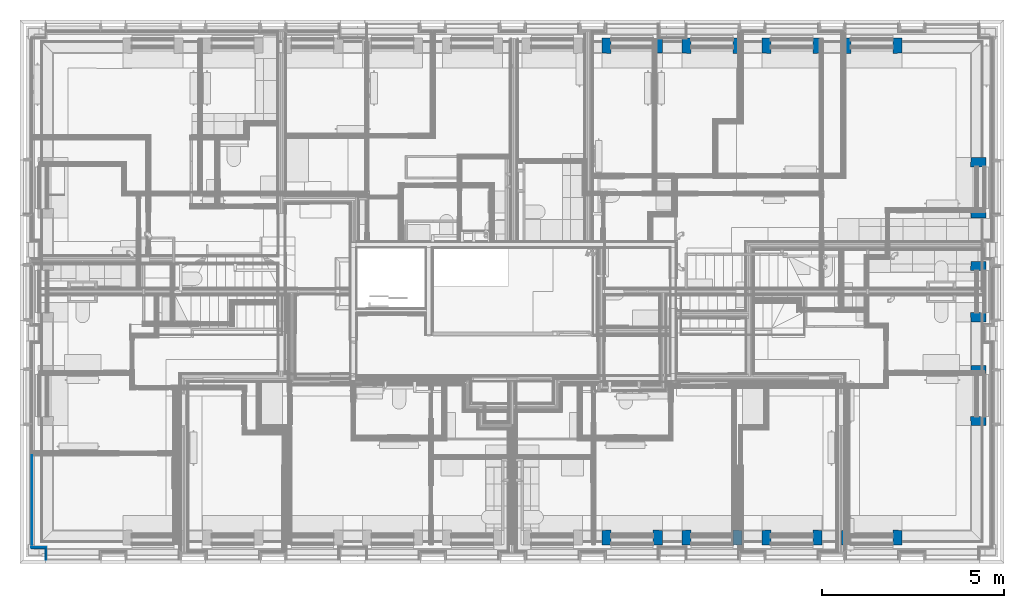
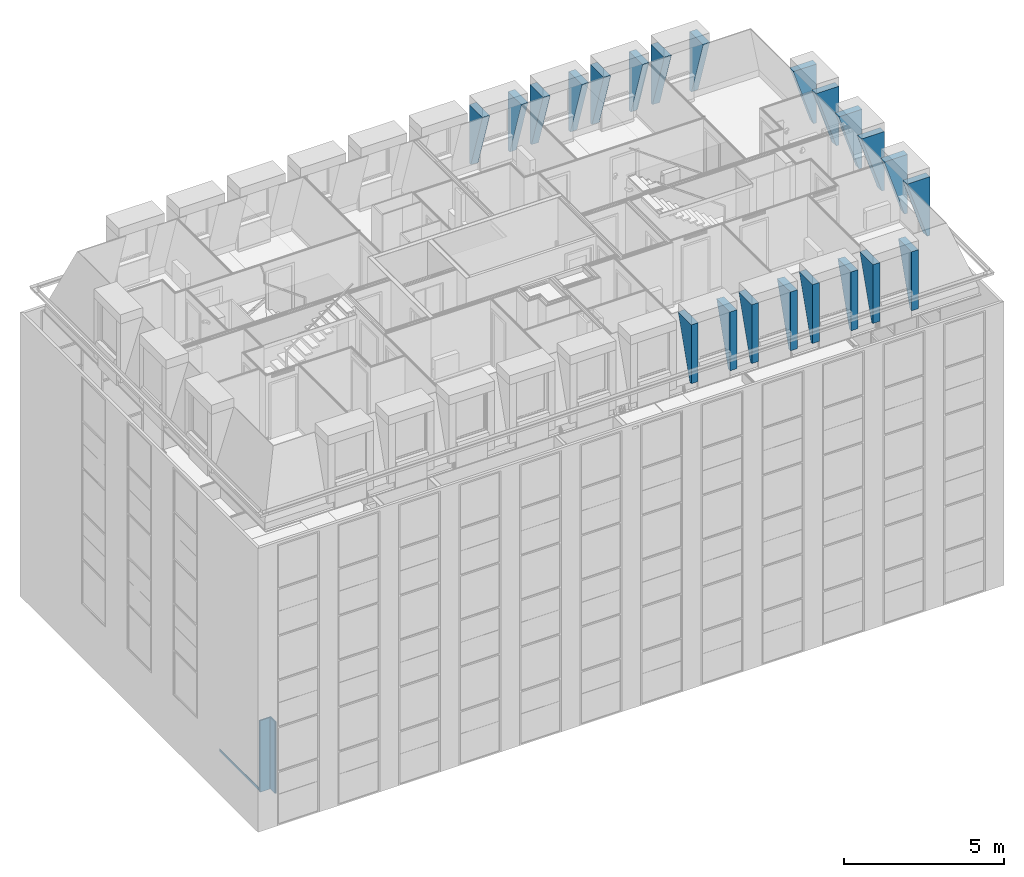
# One storey, part 12 of 169: 22 walls, 5 building element parts, 3 elements without a shape of their own.
"""IFC2X3 building model written with IfcOpenShell, lengths in metres."""

import ifcopenshell
import ifcopenshell.guid

model = None  # the IFC model being written
_history = None  # IfcOwnerHistory: only IFC2X3 demands one
_inside = {}  # id of a spatial element -> (the spatial element, [elements in it])
_under = {}  # id of a project, library or spatial element -> (it, [spatial elements below it])
_declared = {}  # id of a project -> (the project, [libraries it declares])
_typed = {}  # id of a type object -> (the type object, [elements of that type])
_made_of = {}  # id of a material, layer set ... -> (it, [elements and type objects made of it])


def new_model(schema):
    """Start an empty IFC model of exactly this schema.

    Asked for "IFC4X3", IfcOpenShell would pick the latest addendum, in which some entities
    have other attributes; the version numbers below select the first issue.
    IFC2X3 requires an IfcOwnerHistory on every rooted entity: one is made here for all.
    """
    global model, _history
    if schema == "IFC4X3":
        model = ifcopenshell.file(schema_version=(4, 3, 0, 0))
    else:
        model = ifcopenshell.file(schema=schema)
    _inside.clear()
    _under.clear()
    _declared.clear()
    _typed.clear()
    _made_of.clear()
    _history = None
    if model.schema == "IFC2X3":
        org = make("IfcOrganization", Name="unknown")
        user = make(
            "IfcPersonAndOrganization",
            ThePerson=make("IfcPerson", FamilyName="unknown"),
            TheOrganization=org,
        )
        app = make(
            "IfcApplication",
            ApplicationDeveloper=org,
            Version="unknown",
            ApplicationFullName="unknown",
            ApplicationIdentifier="unknown",
        )
        _history = make(
            "IfcOwnerHistory",
            OwningUser=user,
            OwningApplication=app,
            ChangeAction="ADDED",
            CreationDate=0,
        )
    return model


def make(cls, **values):
    """One entity of the class cls with the attributes given. An attribute that is None is left unset."""
    return model.create_entity(
        cls, **{name: value for name, value in values.items() if value is not None}
    )


def entity(cls, *values):
    """Any entity or typed value of the class cls, its attributes in the order of the schema. None: left unset."""
    e = model.create_entity(cls)
    for i, value in enumerate(values):
        if value is not None:
            e[i] = value
    return e


def rooted(cls, **values):
    """An entity with a GlobalId (a new one), such as an element, a storey or a relation."""
    return make(cls, GlobalId=ifcopenshell.guid.new(), OwnerHistory=_history, **values)


def si_unit(unit_type, name, prefix=None):
    """IfcSIUnit, for example si_unit("LENGTHUNIT", "METRE", prefix="MILLI")."""
    return make("IfcSIUnit", UnitType=unit_type, Prefix=prefix, Name=name)


def converted_unit(unit_type, name, factor, base, dimensions=None, offset=None):
    """IfcConversionBasedUnit, such as the inch: factor (a typed value) times the base unit."""
    return make(
        "IfcConversionBasedUnit"
        if offset is None
        else "IfcConversionBasedUnitWithOffset",
        ConversionOffset=offset,
        Dimensions=None
        if dimensions is None
        else entity("IfcDimensionalExponents", *dimensions),
        UnitType=unit_type,
        Name=name,
        ConversionFactor=make(
            "IfcMeasureWithUnit", ValueComponent=factor, UnitComponent=base
        ),
    )


def derived_unit(unit_type, elements):
    """IfcDerivedUnit: a product of units, each with its exponent."""
    return make(
        "IfcDerivedUnit",
        Elements=[
            make("IfcDerivedUnitElement", Unit=unit, Exponent=power)
            for unit, power in elements
        ],
        UnitType=unit_type,
    )


def money_unit(currency):
    """IfcMonetaryUnit."""
    return make("IfcMonetaryUnit", Currency=currency)


def assignment(units):
    """IfcUnitAssignment: the units of a project."""
    return None if units is None else make("IfcUnitAssignment", Units=units)


def point(xyz):
    """IfcCartesianPoint."""
    return None if xyz is None else make("IfcCartesianPoint", Coordinates=xyz)


def direction(xyz):
    """IfcDirection."""
    return None if xyz is None else make("IfcDirection", DirectionRatios=xyz)


def frame(location, z_axis=None, x_axis=None):
    """IfcAxis2Placement3D, a coordinate frame: its origin and axes. An axis left out is left unset."""
    return make(
        "IfcAxis2Placement3D",
        Location=point(location),
        Axis=direction(z_axis),
        RefDirection=direction(x_axis),
    )


def frame_2d(location, x_axis=None):
    """IfcAxis2Placement2D, a coordinate frame in the plane: its origin and x axis."""
    return make(
        "IfcAxis2Placement2D", Location=point(location), RefDirection=direction(x_axis)
    )


def origin_with_axes():
    """The frame at (0, 0, 0) with the z axis (0, 0, 1) and the x axis (1, 0, 0) written out."""
    return frame((0.0, 0.0, 0.0), z_axis=(0.0, 0.0, 1.0), x_axis=(1.0, 0.0, 0.0))


def place(relative_to, where):
    """IfcLocalPlacement: puts the frame where relative to a parent placement (None: the world)."""
    return make(
        "IfcLocalPlacement", PlacementRelTo=relative_to, RelativePlacement=where
    )


def context(
    kind, dimensions, precision=None, world=None, true_north=None, identifier=None
):
    """IfcGeometricRepresentationContext, for example the 3D "Model" context."""
    return make(
        "IfcGeometricRepresentationContext",
        ContextIdentifier=identifier,
        ContextType=kind,
        CoordinateSpaceDimension=dimensions,
        Precision=precision,
        WorldCoordinateSystem=world,
        TrueNorth=true_north,
    )


def subcontext(parent, identifier, kind, view, scale=None):
    """IfcGeometricRepresentationSubContext, for example "Body" below "Model"."""
    return make(
        "IfcGeometricRepresentationSubContext",
        ContextIdentifier=identifier,
        ContextType=kind,
        ParentContext=parent,
        TargetScale=scale,
        TargetView=view,
    )


def project(units=None, contexts=None):
    """IfcProject with its units and contexts."""
    return rooted(
        "IfcProject",
        Name="project",
        RepresentationContexts=contexts,
        UnitsInContext=assignment(units),
    )


def spatial(cls, under=None, at=None, **own):
    """A site, building, storey or space (cls), placed at a placement, below another one or the project."""
    s = rooted(cls, ObjectPlacement=at, **own)
    if under is not None:
        _under.setdefault(under.id(), (under, []))[1].append(s)
    return s


def polyline(points):
    """IfcPolyline through the points."""
    return make("IfcPolyline", Points=[point(p) for p in points])


def profile(cls, at=None, kind="AREA", **sizes):
    """A parametric profile (cls). Its sizes go by their IFC names, for example OverallWidth=200.0."""
    return make(cls, ProfileType=kind, Position=at, **sizes)


def rectangle(**sizes):
    """IfcRectangleProfileDef."""
    return profile("IfcRectangleProfileDef", **sizes)


def outline(outer, holes=None, kind="AREA"):
    """IfcArbitraryClosedProfileDef: a profile drawn as a closed curve; with holes, ...WithVoids."""
    if holes is None:
        return make("IfcArbitraryClosedProfileDef", ProfileType=kind, OuterCurve=outer)
    return make(
        "IfcArbitraryProfileDefWithVoids",
        ProfileType=kind,
        OuterCurve=outer,
        InnerCurves=holes,
    )


def extrude(swept, where, along, depth):
    """IfcExtrudedAreaSolid: the profile swept, set in the frame where, extruded along a direction by depth."""
    return make(
        "IfcExtrudedAreaSolid",
        SweptArea=swept,
        Position=where,
        ExtrudedDirection=direction(along),
        Depth=depth,
    )


def faces_of(points, faces, orient=None, outer=None):
    """IfcFace entities. A face is a list of loops; a loop is a list of indices into points, from 0.

    orient and outer hold one flag for each loop. By default every Orientation is true, the
    first loop of a face is its IfcFaceOuterBound and the others are IfcFaceBound.
    """
    made = []
    for i, loops in enumerate(faces):
        bounds = []
        for j, loop in enumerate(loops):
            is_outer = j == 0 if outer is None else outer[i][j]
            bounds.append(
                make(
                    "IfcFaceOuterBound" if is_outer else "IfcFaceBound",
                    Bound=make("IfcPolyLoop", Polygon=[points[k] for k in loop]),
                    Orientation=True if orient is None else orient[i][j],
                )
            )
        made.append(make("IfcFace", Bounds=bounds))
    return made


def faceted_brep(points, faces, orient=None, outer=None, voids=None):
    """IfcFacetedBrep: a solid bounded by flat faces; with voids (closed shells), ...WithVoids."""
    shared = [point(p) for p in points]
    hull = make("IfcClosedShell", CfsFaces=faces_of(shared, faces, orient, outer))
    if voids is None:
        return make("IfcFacetedBrep", Outer=hull)
    return make(
        "IfcFacetedBrepWithVoids",
        Outer=hull,
        Voids=[
            make(cls, CfsFaces=faces_of(shared, fs, o, b)) for cls, fs, o, b in voids
        ],
    )


def shape(context_of_items, identifier, shape_type, items):
    """IfcShapeRepresentation: the items that make up one representation, for example the "Body"."""
    return make(
        "IfcShapeRepresentation",
        ContextOfItems=context_of_items,
        RepresentationIdentifier=identifier,
        RepresentationType=shape_type,
        Items=items,
    )


def material(Name=None, Category=None):
    """IfcMaterial."""
    return make("IfcMaterial", Name=Name, Category=Category)


def made_of(thing, what):
    """Note that an element or type object is made of a material, layer set ...; save() writes the relation."""
    if what is not None:
        _made_of.setdefault(what.id(), (what, []))[1].append(thing)
    return thing


def type_object(cls, material=None, **own):
    """A type object (cls), such as IfcWallType, which elements share."""
    return made_of(rooted(cls, **own), material)


def element(
    cls,
    number,
    at=None,
    inside=None,
    cuts=None,
    type_object=None,
    material=None,
    context=None,
    identifier="Body",
    shape_type=None,
    held_by="IfcProductDefinitionShape",
    body=None,
    shapes=None,
    **own,
):
    """One element of the class cls, such as IfcWall. Its Tag is "e" and its number.

    at: its placement. inside: the storey or other place that contains it. cuts: it is an
    opening in that element (IfcRelVoidsElement). A single representation is given by context,
    identifier, shape_type and body (its items); several are given by shapes. held_by: the class
    of the entity that holds the representations. save() writes the other relations.
    """
    e = rooted(cls, Tag="e%d" % number, ObjectPlacement=at, **own)
    if body is not None:
        shapes = [shape(context, identifier, shape_type, body)]
    if shapes is not None:
        e.Representation = make(held_by, Representations=shapes)
    if inside is not None:
        _inside.setdefault(inside.id(), (inside, []))[1].append(e)
    if cuts is not None:
        rooted(
            "IfcRelVoidsElement", RelatingBuildingElement=cuts, RelatedOpeningElement=e
        )
    if type_object is not None:
        _typed.setdefault(type_object.id(), (type_object, []))[1].append(e)
    return made_of(e, material)


def aggregate(whole, parts):
    """IfcRelAggregates: a whole, such as a stair, and the parts it consists of."""
    return rooted("IfcRelAggregates", RelatingObject=whole, RelatedObjects=parts)


def save(model, path):
    """Write the relations noted so far, then the file.

    IfcRelAggregates (storeys below a building ...), IfcRelContainedInSpatialStructure (elements
    in a storey), IfcRelDefinesByType, IfcRelAssociatesMaterial and IfcRelDeclares: one each for
    every whole, place, type object, material and project.
    """
    for whole, parts in _under.values():
        aggregate(whole, parts)
    for where, things in _inside.values():
        rooted(
            "IfcRelContainedInSpatialStructure",
            RelatedElements=things,
            RelatingStructure=where,
        )
    for kind, things in _typed.values():
        rooted("IfcRelDefinesByType", RelatedObjects=things, RelatingType=kind)
    for what, things in _made_of.values():
        rooted("IfcRelAssociatesMaterial", RelatedObjects=things, RelatingMaterial=what)
    for by, libraries in _declared.values():
        rooted("IfcRelDeclares", RelatingContext=by, RelatedDefinitions=libraries)
    model.write(path)


model = new_model("IFC2X3")

# Units and contexts
model_context = context("Model", 3, precision=1e-05, world=origin_with_axes(), true_north=direction((0.0, 1.0)))
body_context = subcontext(model_context, "Body", "Model", "MODEL_VIEW", scale=1.0)
ifc_project = project(units=[si_unit("LENGTHUNIT", "METRE"), si_unit("AREAUNIT", "SQUARE_METRE"), si_unit("VOLUMEUNIT", "CUBIC_METRE"), si_unit("ABSORBEDDOSEUNIT", "GRAY"), si_unit("AMOUNTOFSUBSTANCEUNIT", "MOLE"), si_unit("DOSEEQUIVALENTUNIT", "SIEVERT"), si_unit("ELECTRICCAPACITANCEUNIT", "FARAD"), si_unit("ELECTRICCHARGEUNIT", "COULOMB"), si_unit("ELECTRICCONDUCTANCEUNIT", "SIEMENS"), si_unit("ELECTRICCURRENTUNIT", "AMPERE"), si_unit("ELECTRICRESISTANCEUNIT", "OHM"), si_unit("ELECTRICVOLTAGEUNIT", "VOLT"), si_unit("ENERGYUNIT", "JOULE"), si_unit("FORCEUNIT", "NEWTON"), si_unit("FREQUENCYUNIT", "HERTZ"), si_unit("ILLUMINANCEUNIT", "LUX"), si_unit("INDUCTANCEUNIT", "HENRY"), si_unit("LUMINOUSFLUXUNIT", "LUMEN"), si_unit("LUMINOUSINTENSITYUNIT", "CANDELA"), si_unit("MAGNETICFLUXDENSITYUNIT", "TESLA"), si_unit("MAGNETICFLUXUNIT", "WEBER"), si_unit("MASSUNIT", "GRAM"), converted_unit("PLANEANGLEUNIT", "degree", entity("IfcReal", 0.0174532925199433), si_unit("PLANEANGLEUNIT", "RADIAN"), dimensions=[0, 0, 0, 0, 0, 0, 0]), si_unit("POWERUNIT", "WATT"), si_unit("PRESSUREUNIT", "PASCAL"), si_unit("RADIOACTIVITYUNIT", "BECQUEREL"), si_unit("SOLIDANGLEUNIT", "STERADIAN"), si_unit("THERMODYNAMICTEMPERATUREUNIT", "KELVIN"), si_unit("TIMEUNIT", "SECOND"), derived_unit("ACCELERATIONUNIT", [(si_unit("LENGTHUNIT", "METRE"), 1), (si_unit("TIMEUNIT", "SECOND"), -2)]), derived_unit("ANGULARVELOCITYUNIT", [(converted_unit("PLANEANGLEUNIT", "degree", entity("IfcReal", 0.0174532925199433), si_unit("PLANEANGLEUNIT", "RADIAN"), dimensions=[0, 0, 0, 0, 0, 0, 0]), 1), (si_unit("TIMEUNIT", "SECOND"), -1)]), derived_unit("CURVATUREUNIT", [(converted_unit("PLANEANGLEUNIT", "degree", entity("IfcReal", 0.0174532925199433), si_unit("PLANEANGLEUNIT", "RADIAN"), dimensions=[0, 0, 0, 0, 0, 0, 0]), 1), (si_unit("LENGTHUNIT", "METRE"), -1)]), derived_unit("DYNAMICVISCOSITYUNIT", [(si_unit("PRESSUREUNIT", "PASCAL"), 1), (si_unit("TIMEUNIT", "SECOND"), 1)]), derived_unit("HEATFLUXDENSITYUNIT", [(si_unit("POWERUNIT", "WATT"), 1), (si_unit("LENGTHUNIT", "METRE"), -2)]), derived_unit("HEATINGVALUEUNIT", [(si_unit("ENERGYUNIT", "JOULE"), 1), (si_unit("MASSUNIT", "GRAM"), -1)]), derived_unit("INTEGERCOUNTRATEUNIT", [(si_unit("TIMEUNIT", "SECOND"), -1)]), derived_unit("IONCONCENTRATIONUNIT", [(si_unit("MASSUNIT", "GRAM"), 1), (si_unit("VOLUMEUNIT", "CUBIC_METRE"), -1)]), derived_unit("ISOTHERMALMOISTURECAPACITYUNIT", [(si_unit("VOLUMEUNIT", "CUBIC_METRE"), 1), (si_unit("MASSUNIT", "GRAM"), -1)]), derived_unit("KINEMATICVISCOSITYUNIT", [(si_unit("AREAUNIT", "SQUARE_METRE"), 1), (si_unit("TIMEUNIT", "SECOND"), -1)]), derived_unit("LINEARFORCEUNIT", [(si_unit("FORCEUNIT", "NEWTON"), 1), (si_unit("LENGTHUNIT", "METRE"), -1)]), derived_unit("LINEARMOMENTUNIT", [(si_unit("FORCEUNIT", "NEWTON"), 1), (si_unit("LENGTHUNIT", "METRE"), -1)]), derived_unit("LINEARSTIFFNESSUNIT", [(si_unit("FORCEUNIT", "NEWTON"), 1), (si_unit("LENGTHUNIT", "METRE"), -1)]), derived_unit("LINEARVELOCITYUNIT", [(si_unit("LENGTHUNIT", "METRE"), 1), (si_unit("TIMEUNIT", "SECOND"), -1)]), derived_unit("LUMINOUSINTENSITYDISTRIBUTIONUNIT", [(si_unit("LUMINOUSINTENSITYUNIT", "CANDELA"), 1), (si_unit("LUMINOUSFLUXUNIT", "LUMEN"), -1)]), derived_unit("MASSDENSITYUNIT", [(si_unit("MASSUNIT", "GRAM"), 1), (si_unit("VOLUMEUNIT", "CUBIC_METRE"), -1)]), derived_unit("MASSFLOWRATEUNIT", [(si_unit("MASSUNIT", "GRAM"), 1), (si_unit("TIMEUNIT", "SECOND"), -1)]), derived_unit("MASSPERLENGTHUNIT", [(si_unit("MASSUNIT", "GRAM"), 1), (si_unit("LENGTHUNIT", "METRE"), -1)]), derived_unit("MODULUSOFELASTICITYUNIT", [(si_unit("FORCEUNIT", "NEWTON"), 1), (si_unit("AREAUNIT", "SQUARE_METRE"), -1)]), derived_unit("MODULUSOFLINEARSUBGRADEREACTIONUNIT", [(si_unit("FORCEUNIT", "NEWTON"), 1), (si_unit("LENGTHUNIT", "METRE"), -2)]), derived_unit("MODULUSOFROTATIONALSUBGRADEREACTIONUNIT", [(si_unit("FORCEUNIT", "NEWTON"), 1), (si_unit("LENGTHUNIT", "METRE"), 1)]), derived_unit("MODULUSOFSUBGRADEREACTIONUNIT", [(si_unit("FORCEUNIT", "NEWTON"), 1), (si_unit("VOLUMEUNIT", "CUBIC_METRE"), -1)]), derived_unit("MOISTUREDIFFUSIVITYUNIT", [(si_unit("VOLUMEUNIT", "CUBIC_METRE"), 1), (si_unit("TIMEUNIT", "SECOND"), -1)]), derived_unit("MOLECULARWEIGHTUNIT", [(si_unit("MASSUNIT", "GRAM"), 1), (si_unit("AMOUNTOFSUBSTANCEUNIT", "MOLE"), -1)]), derived_unit("PLANARFORCEUNIT", [(si_unit("FORCEUNIT", "NEWTON"), 1), (si_unit("LENGTHUNIT", "METRE"), -2)]), derived_unit("ROTATIONALFREQUENCYUNIT", [(si_unit("TIMEUNIT", "SECOND"), -1)]), derived_unit("ROTATIONALMASSUNIT", [(si_unit("MASSUNIT", "GRAM"), 1), (si_unit("LENGTHUNIT", "METRE"), 2)]), derived_unit("ROTATIONALSTIFFNESSUNIT", [(si_unit("FORCEUNIT", "NEWTON"), 1), (si_unit("LENGTHUNIT", "METRE"), 1), (converted_unit("PLANEANGLEUNIT", "degree", entity("IfcReal", 0.0174532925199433), si_unit("PLANEANGLEUNIT", "RADIAN"), dimensions=[0, 0, 0, 0, 0, 0, 0]), -1)]), derived_unit("SECTIONAREAINTEGRALUNIT", [(si_unit("LENGTHUNIT", "METRE"), 5)]), derived_unit("SECTIONMODULUSUNIT", [(si_unit("LENGTHUNIT", "METRE"), 3)]), derived_unit("SHEARMODULUSUNIT", [(si_unit("FORCEUNIT", "NEWTON"), 1), (si_unit("AREAUNIT", "SQUARE_METRE"), -1)]), derived_unit("SOUNDPOWERUNIT", [(si_unit("ENERGYUNIT", "JOULE"), 1), (si_unit("TIMEUNIT", "SECOND"), -1)]), derived_unit("SPECIFICHEATCAPACITYUNIT", [(si_unit("FORCEUNIT", "NEWTON"), 1), (si_unit("MASSUNIT", "GRAM"), -1), (si_unit("THERMODYNAMICTEMPERATUREUNIT", "KELVIN"), -1)]), derived_unit("TEMPERATUREGRADIENTUNIT", [(si_unit("THERMODYNAMICTEMPERATUREUNIT", "KELVIN"), 1), (si_unit("LENGTHUNIT", "METRE"), -1)]), derived_unit("THERMALADMITTANCEUNIT", [(si_unit("POWERUNIT", "WATT"), 1), (si_unit("AREAUNIT", "SQUARE_METRE"), -1), (si_unit("THERMODYNAMICTEMPERATUREUNIT", "KELVIN"), -1)]), derived_unit("THERMALCONDUCTANCEUNIT", [(si_unit("POWERUNIT", "WATT"), 1), (si_unit("LENGTHUNIT", "METRE"), -1), (si_unit("THERMODYNAMICTEMPERATUREUNIT", "KELVIN"), -1)]), derived_unit("THERMALEXPANSIONCOEFFICIENTUNIT", [(si_unit("THERMODYNAMICTEMPERATUREUNIT", "KELVIN"), -1)]), derived_unit("THERMALRESISTANCEUNIT", [(si_unit("AREAUNIT", "SQUARE_METRE"), 1), (si_unit("POWERUNIT", "WATT"), -1)]), derived_unit("THERMALTRANSMITTANCEUNIT", [(si_unit("POWERUNIT", "WATT"), 1), (si_unit("AREAUNIT", "SQUARE_METRE"), -1), (si_unit("THERMODYNAMICTEMPERATUREUNIT", "KELVIN"), -1)]), derived_unit("TORQUEUNIT", [(si_unit("FORCEUNIT", "NEWTON"), 1), (si_unit("LENGTHUNIT", "METRE"), 1)]), derived_unit("VAPORPERMEABILITYUNIT", [(si_unit("MASSUNIT", "GRAM"), 1), (si_unit("TIMEUNIT", "SECOND"), -1)]), derived_unit("VOLUMETRICFLOWRATEUNIT", [(si_unit("VOLUMEUNIT", "CUBIC_METRE"), 1), (si_unit("TIMEUNIT", "SECOND"), -1)]), derived_unit("WARPINGCONSTANTUNIT", [(si_unit("LENGTHUNIT", "METRE"), 6)]), derived_unit("WARPINGMOMENTUNIT", [(si_unit("FORCEUNIT", "NEWTON"), 1), (si_unit("LENGTHUNIT", "METRE"), 2)]), money_unit("GBP")], contexts=[model_context])

# Site, building, storey
site_placement = place(None, origin_with_axes())
site = spatial("IfcSite", under=ifc_project, at=site_placement, Name="Site", CompositionType="ELEMENT")
building_placement = place(site_placement, origin_with_axes())
building = spatial("IfcBuilding", under=site, at=building_placement, Name="Building01", CompositionType="ELEMENT")
storey_placement = place(building_placement, frame((0.0, 0.0, 5.15), z_axis=(0.0, 0.0, 1.0), x_axis=(1.0, 0.0, 0.0)))
storey = spatial("IfcBuildingStorey", under=building, at=storey_placement, Name="1F", CompositionType="ELEMENT", Elevation=5.15)

# Walls
ifc_material_1 = material(Name="A_BSUK_Roofs")
wall_type_1 = type_object("IfcWallType", Name="A-Walls-ExternalBlock", PredefinedType="NOTDEFINED")
wall_1_placement = place(storey_placement, frame((16.210024, 0.499939, 10.08), z_axis=(0.0, 0.0, 1.0), x_axis=(0.0, 1.0, 0.0)))
element("IfcWall", 1, at=wall_1_placement, inside=storey, type_object=wall_type_1, material=ifc_material_1, Name="7C", ObjectType="A-Walls-ExternalBlock", context=body_context, shape_type="Brep", body=[
    faceted_brep([(0.110404, 0.0, 0.0), (0.094632, 0.25, 0.0), (0.825702, 0.25, 2.25), (0.841474, 0.0, 2.25), (0.0, 0.0, 0.0), (0.0, 0.25, 0.0), (0.0, 0.0, 2.25), (0.0, 0.25, 2.25)], [[[0, 1, 2, 3]], [[1, 0, 4, 5]], [[0, 3, 6, 4]], [[2, 1, 5, 7]], [[3, 2, 7, 6]], [[5, 4, 6, 7]]]),
])
wall_2_placement = place(storey_placement, frame((17.609976, 0.499939, 10.08), z_axis=(0.0, 0.0, 1.0), x_axis=(0.0, 1.0, 0.0)))
element("IfcWall", 2, at=wall_2_placement, inside=storey, type_object=wall_type_1, material=ifc_material_1, Name="7C", ObjectType="A-Walls-ExternalBlock", context=body_context, shape_type="Brep", body=[
    faceted_brep([(0.094632, 0.0, 0.0), (0.110404, 0.25, 0.0), (0.841474, 0.25, 2.25), (0.825702, 0.0, 2.25), (0.0, 0.0, 0.0), (0.0, 0.25, 0.0), (0.0, 0.0, 2.25), (0.0, 0.25, 2.25)], [[[0, 1, 2, 3]], [[1, 0, 4, 5]], [[0, 3, 6, 4]], [[2, 1, 5, 7]], [[3, 2, 7, 6]], [[5, 4, 6, 7]]]),
])
wall_3_placement = place(storey_placement, frame((18.400024, 0.499939, 10.08), z_axis=(0.0, 0.0, 1.0), x_axis=(0.0, 1.0, 0.0)))
element("IfcWall", 3, at=wall_3_placement, inside=storey, type_object=wall_type_1, material=ifc_material_1, Name="7C", ObjectType="A-Walls-ExternalBlock", context=body_context, shape_type="Brep", body=[
    faceted_brep([(0.110404, 0.0, 0.0), (0.094632, 0.25, 0.0), (0.825702, 0.25, 2.25), (0.841474, 0.0, 2.25), (0.0, 0.0, 0.0), (0.0, 0.25, 0.0), (0.0, 0.0, 2.25), (0.0, 0.25, 2.25)], [[[0, 1, 2, 3]], [[1, 0, 4, 5]], [[0, 3, 6, 4]], [[2, 1, 5, 7]], [[3, 2, 7, 6]], [[5, 4, 6, 7]]]),
])
wall_4_placement = place(storey_placement, frame((19.799976, 0.499939, 10.08), z_axis=(0.0, 0.0, 1.0), x_axis=(0.0, 1.0, 0.0)))
element("IfcWall", 4, at=wall_4_placement, inside=storey, type_object=wall_type_1, material=ifc_material_1, Name="7C", ObjectType="A-Walls-ExternalBlock", context=body_context, shape_type="Brep", body=[
    faceted_brep([(0.094632, 0.0, 0.0), (0.110404, 0.25, 0.0), (0.841474, 0.25, 2.25), (0.825702, 0.0, 2.25), (0.0, 0.0, 0.0), (0.0, 0.25, 0.0), (0.0, 0.0, 2.25), (0.0, 0.25, 2.25)], [[[0, 1, 2, 3]], [[1, 0, 4, 5]], [[0, 3, 6, 4]], [[2, 1, 5, 7]], [[3, 2, 7, 6]], [[5, 4, 6, 7]]]),
])
wall_5_placement = place(storey_placement, frame((20.590024, 0.499939, 10.08), z_axis=(0.0, 0.0, 1.0), x_axis=(0.0, 1.0, 0.0)))
element("IfcWall", 5, at=wall_5_placement, inside=storey, type_object=wall_type_1, material=ifc_material_1, Name="7C", ObjectType="A-Walls-ExternalBlock", context=body_context, shape_type="Brep", body=[
    faceted_brep([(0.110404, 0.0, 0.0), (0.094632, 0.25, 0.0), (0.825702, 0.25, 2.25), (0.841474, 0.0, 2.25), (0.0, 0.0, 0.0), (0.0, 0.25, 0.0), (0.0, 0.0, 2.25), (0.0, 0.25, 2.25)], [[[0, 1, 2, 3]], [[1, 0, 4, 5]], [[0, 3, 6, 4]], [[2, 1, 5, 7]], [[3, 2, 7, 6]], [[5, 4, 6, 7]]]),
])
wall_6_placement = place(storey_placement, frame((21.989976, 0.499939, 10.08), z_axis=(0.0, 0.0, 1.0), x_axis=(0.0, 1.0, 0.0)))
element("IfcWall", 6, at=wall_6_placement, inside=storey, type_object=wall_type_1, material=ifc_material_1, Name="7C", ObjectType="A-Walls-ExternalBlock", context=body_context, shape_type="Brep", body=[
    faceted_brep([(0.094632, 0.0, 0.0), (0.110404, 0.25, 0.0), (0.841474, 0.25, 2.25), (0.825702, 0.0, 2.25), (0.0, 0.0, 0.0), (0.0, 0.25, 0.0), (0.0, 0.0, 2.25), (0.0, 0.25, 2.25)], [[[0, 1, 2, 3]], [[1, 0, 4, 5]], [[0, 3, 6, 4]], [[2, 1, 5, 7]], [[3, 2, 7, 6]], [[5, 4, 6, 7]]]),
])
wall_7_placement = place(storey_placement, frame((22.780024, 0.499939, 10.08), z_axis=(0.0, 0.0, 1.0), x_axis=(0.0, 1.0, 0.0)))
element("IfcWall", 7, at=wall_7_placement, inside=storey, type_object=wall_type_1, material=ifc_material_1, Name="7C", ObjectType="A-Walls-ExternalBlock", context=body_context, shape_type="Brep", body=[
    faceted_brep([(0.110404, 0.0, 0.0), (0.094632, 0.25, 0.0), (0.825702, 0.25, 2.25), (0.841474, 0.0, 2.25), (0.0, 0.0, 0.0), (0.0, 0.25, 0.0), (0.0, 0.0, 2.25), (0.0, 0.25, 2.25)], [[[0, 1, 2, 3]], [[1, 0, 4, 5]], [[0, 3, 6, 4]], [[2, 1, 5, 7]], [[3, 2, 7, 6]], [[5, 4, 6, 7]]]),
])
wall_8_placement = place(storey_placement, frame((24.179976, 0.499939, 10.08), z_axis=(0.0, 0.0, 1.0), x_axis=(0.0, 1.0, 0.0)))
element("IfcWall", 8, at=wall_8_placement, inside=storey, type_object=wall_type_1, material=ifc_material_1, Name="7C", ObjectType="A-Walls-ExternalBlock", context=body_context, shape_type="Brep", body=[
    faceted_brep([(0.094632, 0.0, 0.0), (0.110404, 0.25, 0.0), (0.841474, 0.25, 2.25), (0.825702, 0.0, 2.25), (0.0, 0.0, 0.0), (0.0, 0.25, 0.0), (0.0, 0.0, 2.25), (0.0, 0.25, 2.25)], [[[0, 1, 2, 3]], [[1, 0, 4, 5]], [[0, 3, 6, 4]], [[2, 1, 5, 7]], [[3, 2, 7, 6]], [[5, 4, 6, 7]]]),
])
wall_9_placement = place(storey_placement, frame((16.210024, 14.400061, 10.08), z_axis=(0.0, 0.0, 1.0), x_axis=(0.0, -1.0, 0.0)))
element("IfcWall", 9, at=wall_9_placement, inside=storey, type_object=wall_type_1, material=ifc_material_1, Name="7C", ObjectType="A-Walls-ExternalBlock", context=body_context, shape_type="Brep", body=[
    faceted_brep([(0.094632, -0.25, 0.0), (0.110404, 0.0, 0.0), (0.841474, 0.0, 2.25), (0.825702, -0.25, 2.25), (0.0, -0.25, 0.0), (0.0, 0.0, 0.0), (0.0, -0.25, 2.25), (0.0, 0.0, 2.25)], [[[0, 1, 2, 3]], [[1, 0, 4, 5]], [[0, 3, 6, 4]], [[2, 1, 5, 7]], [[3, 2, 7, 6]], [[5, 4, 6, 7]]]),
])
wall_10_placement = place(storey_placement, frame((17.609976, 14.400061, 10.08), z_axis=(0.0, 0.0, 1.0), x_axis=(0.0, -1.0, 0.0)))
element("IfcWall", 10, at=wall_10_placement, inside=storey, type_object=wall_type_1, material=ifc_material_1, Name="7C", ObjectType="A-Walls-ExternalBlock", context=body_context, shape_type="Brep", body=[
    faceted_brep([(0.110404, -0.25, 0.0), (0.094632, 0.0, 0.0), (0.825702, 0.0, 2.25), (0.841474, -0.25, 2.25), (0.0, -0.25, 0.0), (0.0, 0.0, 0.0), (0.0, -0.25, 2.25), (0.0, 0.0, 2.25)], [[[0, 1, 2, 3]], [[1, 0, 4, 5]], [[0, 3, 6, 4]], [[2, 1, 5, 7]], [[3, 2, 7, 6]], [[5, 4, 6, 7]]]),
])
wall_11_placement = place(storey_placement, frame((18.400024, 14.400061, 10.08), z_axis=(0.0, 0.0, 1.0), x_axis=(0.0, -1.0, 0.0)))
element("IfcWall", 11, at=wall_11_placement, inside=storey, type_object=wall_type_1, material=ifc_material_1, Name="7C", ObjectType="A-Walls-ExternalBlock", context=body_context, shape_type="Brep", body=[
    faceted_brep([(0.094632, -0.25, 0.0), (0.110404, 0.0, 0.0), (0.841474, 0.0, 2.25), (0.825702, -0.25, 2.25), (0.0, -0.25, 0.0), (0.0, 0.0, 0.0), (0.0, -0.25, 2.25), (0.0, 0.0, 2.25)], [[[0, 1, 2, 3]], [[1, 0, 4, 5]], [[0, 3, 6, 4]], [[2, 1, 5, 7]], [[3, 2, 7, 6]], [[5, 4, 6, 7]]]),
])
wall_12_placement = place(storey_placement, frame((19.799976, 14.400061, 10.08), z_axis=(0.0, 0.0, 1.0), x_axis=(0.0, -1.0, 0.0)))
element("IfcWall", 12, at=wall_12_placement, inside=storey, type_object=wall_type_1, material=ifc_material_1, Name="7C", ObjectType="A-Walls-ExternalBlock", context=body_context, shape_type="Brep", body=[
    faceted_brep([(0.110404, -0.25, 0.0), (0.094632, 0.0, 0.0), (0.825702, 0.0, 2.25), (0.841474, -0.25, 2.25), (0.0, -0.25, 0.0), (0.0, 0.0, 0.0), (0.0, -0.25, 2.25), (0.0, 0.0, 2.25)], [[[0, 1, 2, 3]], [[1, 0, 4, 5]], [[0, 3, 6, 4]], [[2, 1, 5, 7]], [[3, 2, 7, 6]], [[5, 4, 6, 7]]]),
])
wall_13_placement = place(storey_placement, frame((20.590024, 14.400061, 10.08), z_axis=(0.0, 0.0, 1.0), x_axis=(0.0, -1.0, 0.0)))
element("IfcWall", 13, at=wall_13_placement, inside=storey, type_object=wall_type_1, material=ifc_material_1, Name="7C", ObjectType="A-Walls-ExternalBlock", context=body_context, shape_type="Brep", body=[
    faceted_brep([(0.094632, -0.25, 0.0), (0.110404, 0.0, 0.0), (0.841474, 0.0, 2.25), (0.825702, -0.25, 2.25), (0.0, -0.25, 0.0), (0.0, 0.0, 0.0), (0.0, -0.25, 2.25), (0.0, 0.0, 2.25)], [[[0, 1, 2, 3]], [[1, 0, 4, 5]], [[0, 3, 6, 4]], [[2, 1, 5, 7]], [[3, 2, 7, 6]], [[5, 4, 6, 7]]]),
])
wall_14_placement = place(storey_placement, frame((21.989976, 14.400061, 10.08), z_axis=(0.0, 0.0, 1.0), x_axis=(0.0, -1.0, 0.0)))
element("IfcWall", 14, at=wall_14_placement, inside=storey, type_object=wall_type_1, material=ifc_material_1, Name="7C", ObjectType="A-Walls-ExternalBlock", context=body_context, shape_type="Brep", body=[
    faceted_brep([(0.110404, -0.25, 0.0), (0.094632, 0.0, 0.0), (0.825702, 0.0, 2.25), (0.841474, -0.25, 2.25), (0.0, -0.25, 0.0), (0.0, 0.0, 0.0), (0.0, -0.25, 2.25), (0.0, 0.0, 2.25)], [[[0, 1, 2, 3]], [[1, 0, 4, 5]], [[0, 3, 6, 4]], [[2, 1, 5, 7]], [[3, 2, 7, 6]], [[5, 4, 6, 7]]]),
])
wall_15_placement = place(storey_placement, frame((22.780024, 14.400061, 10.08), z_axis=(0.0, 0.0, 1.0), x_axis=(0.0, -1.0, 0.0)))
element("IfcWall", 15, at=wall_15_placement, inside=storey, type_object=wall_type_1, material=ifc_material_1, Name="7C", ObjectType="A-Walls-ExternalBlock", context=body_context, shape_type="Brep", body=[
    faceted_brep([(0.094632, -0.25, 0.0), (0.110404, 0.0, 0.0), (0.841474, 0.0, 2.25), (0.825702, -0.25, 2.25), (0.0, -0.25, 0.0), (0.0, 0.0, 0.0), (0.0, -0.25, 2.25), (0.0, 0.0, 2.25)], [[[0, 1, 2, 3]], [[1, 0, 4, 5]], [[0, 3, 6, 4]], [[2, 1, 5, 7]], [[3, 2, 7, 6]], [[5, 4, 6, 7]]]),
])
for number, where, z_axis, x_axis, name in (
    (16, (24.179976, 14.400061, 10.08), (0.0, 0.0, 1.0), (0.0, -1.0, 0.0), "7C"),
    (17, (26.480061, 9.474964, 10.08), (0.0, 0.0, 1.0), (-1.0, 0.0, 0.0), "7C"),
):
    element("IfcWall", number, at=place(storey_placement, frame(where, z_axis=z_axis, x_axis=x_axis)), inside=storey, type_object=wall_type_1, material=ifc_material_1, Name=name, ObjectType="A-Walls-ExternalBlock", context=body_context, shape_type="Brep", body=[
        faceted_brep([(0.110404, -0.25, 0.0), (0.094632, 0.0, 0.0), (0.825702, 0.0, 2.25), (0.841474, -0.25, 2.25), (0.0, -0.25, 0.0), (0.0, 0.0, 0.0), (0.0, -0.25, 2.25), (0.0, 0.0, 2.25)], [[[0, 1, 2, 3]], [[1, 0, 4, 5]], [[0, 3, 6, 4]], [[2, 1, 5, 7]], [[3, 2, 7, 6]], [[5, 4, 6, 7]]]),
    ])
wall_16_placement = place(storey_placement, frame((26.480061, 8.024915, 10.08), z_axis=(0.0, 0.0, 1.0), x_axis=(-1.0, 0.0, 0.0)))
element("IfcWall", 18, at=wall_16_placement, inside=storey, type_object=wall_type_1, material=ifc_material_1, Name="7C", ObjectType="A-Walls-ExternalBlock", context=body_context, shape_type="Brep", body=[
    faceted_brep([(0.094632, -0.25, 0.0), (0.110404, 0.0, 0.0), (0.841474, 0.0, 2.25), (0.825702, -0.25, 2.25), (0.0, -0.25, 0.0), (0.0, 0.0, 0.0), (0.0, -0.25, 2.25), (0.0, 0.0, 2.25)], [[[0, 1, 2, 3]], [[1, 0, 4, 5]], [[0, 3, 6, 4]], [[2, 1, 5, 7]], [[3, 2, 7, 6]], [[5, 4, 6, 7]]]),
])
wall_17_placement = place(storey_placement, frame((26.385428, 11.124915, 10.08), z_axis=(0.0, 0.0, 1.0), x_axis=(1.0, 0.0, 0.0)))
element("IfcWall", 19, at=wall_17_placement, inside=storey, type_object=wall_type_1, material=ifc_material_1, Name="7C", ObjectType="A-Walls-ExternalBlock", context=body_context, shape_type="Brep", body=[
    faceted_brep([(0.0, 0.0, 0.0), (-0.015772, -0.25, 0.0), (-0.746841, -0.25, 2.25), (-0.731069, 0.0, 2.25), (0.094632, 0.0, 0.0), (0.094632, -0.25, 0.0), (0.094632, -0.25, 2.25), (0.094632, 0.0, 2.25)], [[[0, 1, 2, 3]], [[1, 0, 4, 5]], [[2, 1, 5, 6]], [[0, 3, 7, 4]], [[3, 2, 6, 7]], [[5, 4, 7, 6]]]),
])
wall_18_placement = place(storey_placement, frame((26.480061, 6.624964, 10.08), z_axis=(0.0, 0.0, 1.0), x_axis=(-1.0, 0.0, 0.0)))
element("IfcWall", 20, at=wall_18_placement, inside=storey, type_object=wall_type_1, material=ifc_material_1, Name="7C", ObjectType="A-Walls-ExternalBlock", context=body_context, shape_type="Brep", body=[
    faceted_brep([(0.110404, -0.25, 0.0), (0.094632, 0.0, 0.0), (0.825702, 0.0, 2.25), (0.841474, -0.25, 2.25), (0.0, -0.25, 0.0), (0.0, 0.0, 0.0), (0.0, -0.25, 2.25), (0.0, 0.0, 2.25)], [[[0, 1, 2, 3]], [[1, 0, 4, 5]], [[0, 3, 6, 4]], [[2, 1, 5, 7]], [[3, 2, 7, 6]], [[5, 4, 6, 7]]]),
])
wall_19_placement = place(storey_placement, frame((26.480061, 5.174915, 10.08), z_axis=(0.0, 0.0, 1.0), x_axis=(-1.0, 0.0, 0.0)))
element("IfcWall", 21, at=wall_19_placement, inside=storey, type_object=wall_type_1, material=ifc_material_1, Name="7C", ObjectType="A-Walls-ExternalBlock", context=body_context, shape_type="Brep", body=[
    faceted_brep([(0.094632, -0.25, 0.0), (0.110404, 0.0, 0.0), (0.841474, 0.0, 2.25), (0.825702, -0.25, 2.25), (0.0, -0.25, 0.0), (0.0, 0.0, 0.0), (0.0, -0.25, 2.25), (0.0, 0.0, 2.25)], [[[0, 1, 2, 3]], [[1, 0, 4, 5]], [[0, 3, 6, 4]], [[2, 1, 5, 7]], [[3, 2, 7, 6]], [[5, 4, 6, 7]]]),
])
wall_20_placement = place(storey_placement, frame((26.385428, 3.774964, 10.08), z_axis=(0.0, 0.0, 1.0), x_axis=(1.0, 0.0, 0.0)))
element("IfcWall", 22, at=wall_20_placement, inside=storey, type_object=wall_type_1, material=ifc_material_1, Name="7C", ObjectType="A-Walls-ExternalBlock", context=body_context, shape_type="Brep", body=[
    faceted_brep([(-0.015772, 0.25, 0.0), (0.0, 0.0, 0.0), (-0.731069, 0.0, 2.25), (-0.746841, 0.25, 2.25), (0.094632, 0.25, 0.0), (0.094632, 0.0, 0.0), (0.094632, 0.0, 2.25), (0.094632, 0.25, 2.25)], [[[0, 1, 2, 3]], [[1, 0, 4, 5]], [[2, 1, 5, 6]], [[0, 3, 7, 4]], [[3, 2, 6, 7]], [[5, 4, 7, 6]]]),
])

# Wall, building element part
wall_type_2 = type_object("IfcWallType", Name="SHE_A-Walls_Type06d_ExternalWallInsulation_48mm", PredefinedType="NOTDEFINED")
wall_21_placement = place(storey_placement, frame((0.27, 3.81018, 0.0), z_axis=(0.0, 0.0, 1.0), x_axis=(0.0, -1.0, 0.0)))
wall_21 = element("IfcWall", 23, at=wall_21_placement, inside=storey, type_object=wall_type_2, Name="6D", ObjectType="SHE_A-Walls_Type06d_ExternalWallInsulation_48mm")
ifc_material_2 = material(Name="A_BSUK_Walls_Timber")
building_element_part_1_placement = place(wall_21_placement, origin_with_axes())
building_element_part_1 = element("IfcBuildingElementPart", 24, at=building_element_part_1_placement, material=ifc_material_2, Name="4", context=body_context, shape_type="SweptSolid", body=[
    extrude(rectangle(XDim=2.507286, YDim=0.015, at=frame_2d((2.093537, 0.0555), x_axis=(-1.0, 0.0))), frame((0.0, 0.0, 0.015), z_axis=(0.0, 0.0, 1.0), x_axis=(1.0, 0.0, 0.0)), (0.0, 0.0, 1.0), 0.1),
])
aggregate(wall_21, [building_element_part_1])

# Wall, building element parts
wall_22_placement = place(storey_placement, frame((0.306, 0.4, 0.0), z_axis=(0.0, 0.0, 1.0), x_axis=(1.0, 0.0, 0.0)))
wall_22 = element("IfcWall", 25, at=wall_22_placement, inside=storey, type_object=wall_type_2, Name="6D", ObjectType="SHE_A-Walls_Type06d_ExternalWallInsulation_48mm")
ifc_material_3 = material(Name="A_BSUK_Insulation")
placement_1 = place(wall_22_placement, origin_with_axes())
building_element_part_2 = element("IfcBuildingElementPart", 26, at=placement_1, material=ifc_material_3, Name="1", context=body_context, shape_type="SweptSolid", body=[
    extrude(rectangle(XDim=0.371, YDim=0.036, at=frame_2d((0.1855, 0.018), x_axis=(-1.0, 0.0))), origin_with_axes(), (0.0, 0.0, 1.0), 2.74),
])
ifc_material_4 = material(Name="A_BSUK_WallInternal_Finishes_Plasterboard")
building_element_part_3 = element("IfcBuildingElementPart", 27, at=placement_1, material=ifc_material_4, Name="2", context=body_context, shape_type="SweptSolid", body=[
    extrude(outline(polyline([(0.419, 0.048), (-0.001, 0.048), (-0.001, 0.035), (0.406, 0.035), (0.419, 0.048)])), origin_with_axes(), (0.0, 0.0, 1.0), 2.74),
])
aggregate(wall_22, [building_element_part_2, building_element_part_3])

wall_23_placement = place(storey_placement, frame((0.677, 0.436, 0.0), z_axis=(0.0, 0.0, 1.0), x_axis=(0.0, -1.0, 0.0)))
wall_23 = element("IfcWall", 28, at=wall_23_placement, inside=storey, type_object=wall_type_2, Name="6D", ObjectType="SHE_A-Walls_Type06d_ExternalWallInsulation_48mm")
placement_2 = place(wall_23_placement, origin_with_axes())
building_element_part_4 = element("IfcBuildingElementPart", 29, at=placement_2, material=ifc_material_3, Name="1", context=body_context, shape_type="SweptSolid", body=[
    extrude(rectangle(XDim=0.036, YDim=0.336, at=frame_2d((0.168, 0.018), x_axis=(0.0, -1.0))), origin_with_axes(), (0.0, 0.0, 1.0), 2.74),
])
building_element_part_5 = element("IfcBuildingElementPart", 30, at=placement_2, material=ifc_material_4, Name="2", context=body_context, shape_type="SweptSolid", body=[
    extrude(outline(polyline([(-0.012, 0.048), (0.001, 0.035), (0.336, 0.035), (0.336, 0.048), (-0.012, 0.048)])), origin_with_axes(), (0.0, 0.0, 1.0), 2.74),
])
aggregate(wall_23, [building_element_part_4, building_element_part_5])

save(model, "model.ifc")
